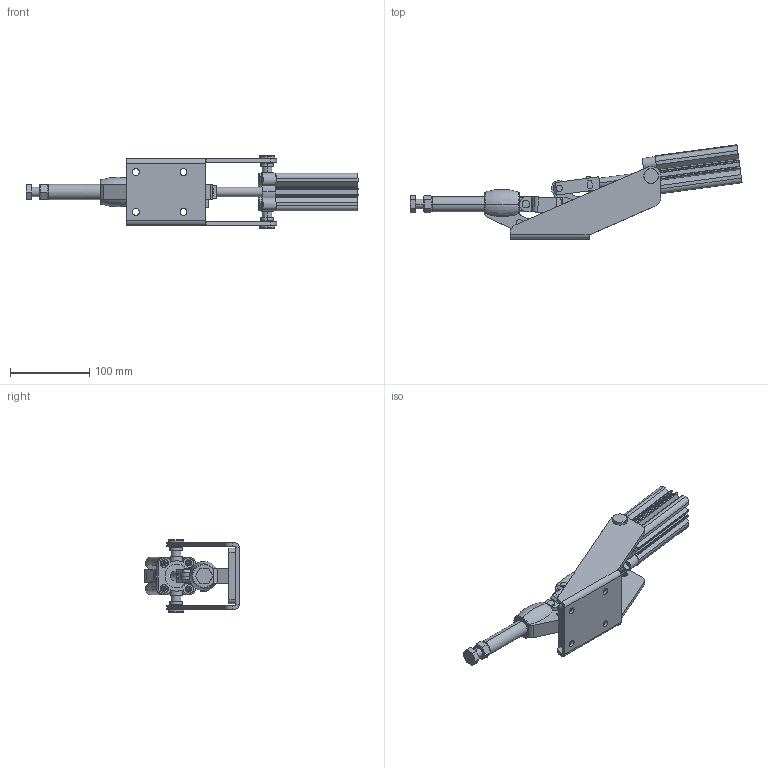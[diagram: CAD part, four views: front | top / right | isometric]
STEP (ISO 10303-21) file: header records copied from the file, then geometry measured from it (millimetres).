
FILE_DESCRIPTION (( 'STEP AP203' ), '1' );
FILE_NAME ('KF-052 P.STEP', '2016-12-15T15:30:27', ( 'Ricardo' ), ( '' ), 'SwSTEP 2.0', 'SolidWorks 2015', '' );
FILE_SCHEMA (( 'CONFIG_CONTROL_DESIGN' ));
Length unit declared in the file: millimetre
Products named in the file (20): 01.10089; 2800320600CP_avan㌢do; 01.10090; KF-052 P; 06.50015; 15.10087; 11.50004; 15.20008; 12.50022; CNKFE032KT; 02.30010; PP-M12; 16.20067; 03.20039; 1 PC 21287; 501-016; 08.10043; 2 PC 21287; 06.50026; 3 PC 21287
Assembly tree (24 placements, depth 3):
  KF-052 P
    02.30010
    03.20039
    08.10043  x2
    06.50026  x3
    01.10089
    01.10090
    15.10087
    15.20008
    CNKFE032KT
    16.20067  x2
    501-016  x2
    06.50015
    PP-M12
      11.50004
      12.50022
    2800320600CP_avan㌢do
      1 PC 21287
      2 PC 21287
      3 PC 21287
Bounding box: 417.81 x 118.66 x 91.5 mm (x, y, z)
Volume: 436363.1 mm3; surface area: 191042.6 mm2
Topology: 22 solids, 22 shells, 1044 faces, 2658 edges, 1719 vertices
Faces by surface type: plane 434, cylinder 329, bspline 200, cone 74, torus 7
Entity records: 39461 total; most frequent: CARTESIAN_POINT 14866, ORIENTED_EDGE 4872, DIRECTION 4176, EDGE_CURVE 2436, VERTEX_POINT 1590, AXIS2_PLACEMENT_3D 1426, LINE 1324, VECTOR 1324
